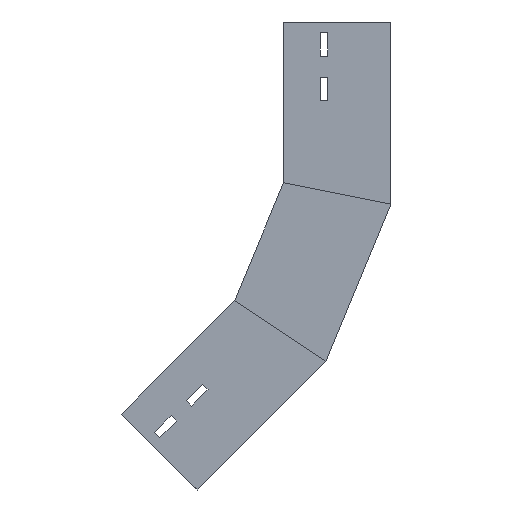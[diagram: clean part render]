
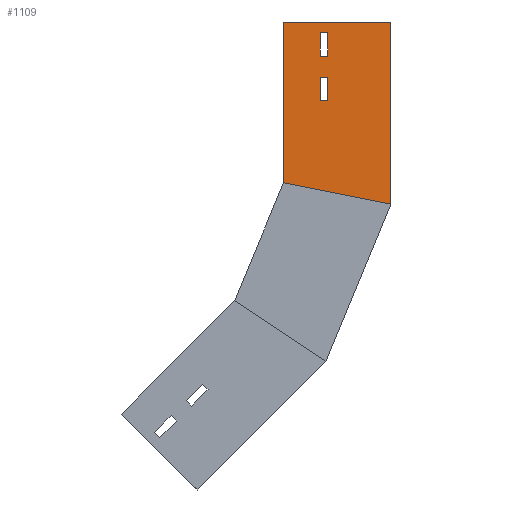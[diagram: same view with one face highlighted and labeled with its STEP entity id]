
A CAD part, left-side view. The second image highlights one B-rep face of the part: STEP entity #1109.
In plain terms, the highlighted planar face has unit normal (-1, 0, 0) as drawn and (1, 0, 0) by its records, which use the part's own axes.
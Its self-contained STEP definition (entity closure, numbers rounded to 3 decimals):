
#26 = VERTEX_POINT ( 'NONE', #1038 ) ;
#53 = LINE ( 'NONE', #511, #810 ) ;
#57 = EDGE_CURVE ( 'NONE', #1322, #1430, #823, .T. ) ;
#68 = VERTEX_POINT ( 'NONE', #1426 ) ;
#70 = VECTOR ( 'NONE', #552, 1000. ) ;
#73 = VECTOR ( 'NONE', #1220, 1000. ) ;
#84 = ORIENTED_EDGE ( 'NONE', *, *, #308, .T. ) ;
#90 = FACE_BOUND ( 'NONE', #761, .T. ) ;
#93 = ORIENTED_EDGE ( 'NONE', *, *, #1489, .F. ) ;
#98 = VECTOR ( 'NONE', #1019, 1000. ) ;
#113 = CARTESIAN_POINT ( 'NONE',  ( 0., 175.274, -337.315 ) ) ;
#150 = CARTESIAN_POINT ( 'NONE',  ( 0., 170.324, -342.265 ) ) ;
#151 = CARTESIAN_POINT ( 'NONE',  ( 0., 60.655, -316.035 ) ) ;
#164 = CARTESIAN_POINT ( 'NONE',  ( 0., 190.83, -352.872 ) ) ;
#198 = VECTOR ( 'NONE', #547, 1000. ) ;
#201 = LINE ( 'NONE', #653, #905 ) ;
#205 = CARTESIAN_POINT ( 'NONE',  ( 0., 60.655, -316.035 ) ) ;
#234 = CARTESIAN_POINT ( 'NONE',  ( 0., 204.739, -366.78 ) ) ;
#236 = CARTESIAN_POINT ( 'NONE',  ( 0., 185.88, -357.821 ) ) ;
#267 = EDGE_CURVE ( 'NONE', #1322, #309, #1121, .T. ) ;
#276 = EDGE_CURVE ( 'NONE', #334, #26, #799, .T. ) ;
#299 = LINE ( 'NONE', #1422, #576 ) ;
#308 = EDGE_CURVE ( 'NONE', #451, #309, #1238, .T. ) ;
#309 = VERTEX_POINT ( 'NONE', #1249 ) ;
#318 = CARTESIAN_POINT ( 'NONE',  ( 0., 220.295, -382.337 ) ) ;
#326 = DIRECTION ( 'NONE',  ( 0., 0.707, -0.707 ) ) ;
#334 = VERTEX_POINT ( 'NONE', #901 ) ;
#349 = ORIENTED_EDGE ( 'NONE', *, *, #474, .F. ) ;
#389 = VECTOR ( 'NONE', #1418, 1000. ) ;
#391 = VECTOR ( 'NONE', #1325, 1000. ) ;
#402 = VERTEX_POINT ( 'NONE', #164 ) ;
#419 = DIRECTION ( 'NONE',  ( 0., -0.707, -0.707 ) ) ;
#426 = DIRECTION ( 'NONE',  ( -1., 0., 0. ) ) ;
#441 = FACE_BOUND ( 'NONE', #923, .T. ) ;
#451 = VERTEX_POINT ( 'NONE', #495 ) ;
#456 = VECTOR ( 'NONE', #1474, 1000. ) ;
#474 = EDGE_CURVE ( 'NONE', #1011, #1195, #890, .T. ) ;
#495 = CARTESIAN_POINT ( 'NONE',  ( 0., 180.581, -435.96 ) ) ;
#506 = CARTESIAN_POINT ( 'NONE',  ( 0., 86.366, -298.856 ) ) ;
#511 = CARTESIAN_POINT ( 'NONE',  ( 0., 190.83, -352.872 ) ) ;
#526 = VECTOR ( 'NONE', #326, 1000. ) ;
#547 = DIRECTION ( 'NONE',  ( 0., 0.707, 0.707 ) ) ;
#552 = DIRECTION ( 'NONE',  ( 0., 0.707, -0.707 ) ) ;
#562 = CARTESIAN_POINT ( 'NONE',  ( 0., 180.581, -435.96 ) ) ;
#566 = DIRECTION ( 'NONE',  ( 0., 0.707, -0.707 ) ) ;
#576 = VECTOR ( 'NONE', #419, 1000. ) ;
#603 = EDGE_CURVE ( 'NONE', #1430, #451, #666, .T. ) ;
#630 = EDGE_LOOP ( 'NONE', ( #661, #682, #84, #1405 ) ) ;
#645 = ORIENTED_EDGE ( 'NONE', *, *, #856, .F. ) ;
#653 = CARTESIAN_POINT ( 'NONE',  ( 0., 220.295, -382.337 ) ) ;
#660 = CARTESIAN_POINT ( 'NONE',  ( 0., 60.655, -316.035 ) ) ;
#661 = ORIENTED_EDGE ( 'NONE', *, *, #57, .T. ) ;
#666 = LINE ( 'NONE', #205, #70 ) ;
#682 = ORIENTED_EDGE ( 'NONE', *, *, #603, .T. ) ;
#684 = PLANE ( 'NONE',  #894 ) ;
#687 = EDGE_CURVE ( 'NONE', #1258, #68, #1252, .T. ) ;
#703 = ORIENTED_EDGE ( 'NONE', *, *, #687, .F. ) ;
#761 = EDGE_LOOP ( 'NONE', ( #645, #349, #990, #1436 ) ) ;
#765 = CARTESIAN_POINT ( 'NONE',  ( 0., 215.346, -387.287 ) ) ;
#766 = CARTESIAN_POINT ( 'NONE',  ( 0., 190.83, -352.872 ) ) ;
#799 = LINE ( 'NONE', #234, #98 ) ;
#810 = VECTOR ( 'NONE', #968, 1000. ) ;
#817 = VECTOR ( 'NONE', #566, 1000. ) ;
#823 = LINE ( 'NONE', #506, #389 ) ;
#848 = EDGE_CURVE ( 'NONE', #402, #1170, #1453, .T. ) ;
#856 = EDGE_CURVE ( 'NONE', #1195, #334, #201, .T. ) ;
#890 = LINE ( 'NONE', #318, #198 ) ;
#894 = AXIS2_PLACEMENT_3D ( 'NONE', #660, #426, #1465 ) ;
#901 = CARTESIAN_POINT ( 'NONE',  ( 0., 204.739, -366.78 ) ) ;
#905 = VECTOR ( 'NONE', #1112, 1000. ) ;
#923 = EDGE_LOOP ( 'NONE', ( #1291, #93, #703, #1262 ) ) ;
#931 = CARTESIAN_POINT ( 'NONE',  ( 0., 145.431, -259.389 ) ) ;
#968 = DIRECTION ( 'NONE',  ( 0., 0.707, 0.707 ) ) ;
#990 = ORIENTED_EDGE ( 'NONE', *, *, #1047, .F. ) ;
#1011 = VERTEX_POINT ( 'NONE', #765 ) ;
#1019 = DIRECTION ( 'NONE',  ( 0., -0.707, -0.707 ) ) ;
#1038 = CARTESIAN_POINT ( 'NONE',  ( 0., 199.789, -371.73 ) ) ;
#1047 = EDGE_CURVE ( 'NONE', #26, #1011, #1103, .T. ) ;
#1060 = EDGE_CURVE ( 'NONE', #1170, #1258, #299, .T. ) ;
#1095 = CARTESIAN_POINT ( 'NONE',  ( 0., 215.346, -387.287 ) ) ;
#1103 = LINE ( 'NONE', #1095, #391 ) ;
#1109 = ADVANCED_FACE ( 'NONE', ( #90, #441, #1243 ), #684, .F. ) ;
#1112 = DIRECTION ( 'NONE',  ( 0., -0.707, 0.707 ) ) ;
#1121 = LINE ( 'NONE', #1378, #526 ) ;
#1170 = VERTEX_POINT ( 'NONE', #113 ) ;
#1195 = VERTEX_POINT ( 'NONE', #1374 ) ;
#1220 = DIRECTION ( 'NONE',  ( 0., -0.707, 0.707 ) ) ;
#1238 = LINE ( 'NONE', #562, #456 ) ;
#1243 = FACE_OUTER_BOUND ( 'NONE', #630, .T. ) ;
#1249 = CARTESIAN_POINT ( 'NONE',  ( 0., 251.291, -365.25 ) ) ;
#1252 = LINE ( 'NONE', #236, #817 ) ;
#1258 = VERTEX_POINT ( 'NONE', #150 ) ;
#1262 = ORIENTED_EDGE ( 'NONE', *, *, #1060, .F. ) ;
#1291 = ORIENTED_EDGE ( 'NONE', *, *, #848, .F. ) ;
#1322 = VERTEX_POINT ( 'NONE', #931 ) ;
#1325 = DIRECTION ( 'NONE',  ( 0., 0.707, -0.707 ) ) ;
#1374 = CARTESIAN_POINT ( 'NONE',  ( 0., 220.295, -382.337 ) ) ;
#1378 = CARTESIAN_POINT ( 'NONE',  ( 0., 131.366, -245.324 ) ) ;
#1405 = ORIENTED_EDGE ( 'NONE', *, *, #267, .F. ) ;
#1418 = DIRECTION ( 'NONE',  ( 0., -0.831, -0.556 ) ) ;
#1422 = CARTESIAN_POINT ( 'NONE',  ( 0., 175.274, -337.315 ) ) ;
#1426 = CARTESIAN_POINT ( 'NONE',  ( 0., 185.88, -357.821 ) ) ;
#1430 = VERTEX_POINT ( 'NONE', #151 ) ;
#1436 = ORIENTED_EDGE ( 'NONE', *, *, #276, .F. ) ;
#1453 = LINE ( 'NONE', #766, #73 ) ;
#1465 = DIRECTION ( 'NONE',  ( 0., 0., 1. ) ) ;
#1474 = DIRECTION ( 'NONE',  ( 0., 0.707, 0.707 ) ) ;
#1489 = EDGE_CURVE ( 'NONE', #68, #402, #53, .T. ) ;
